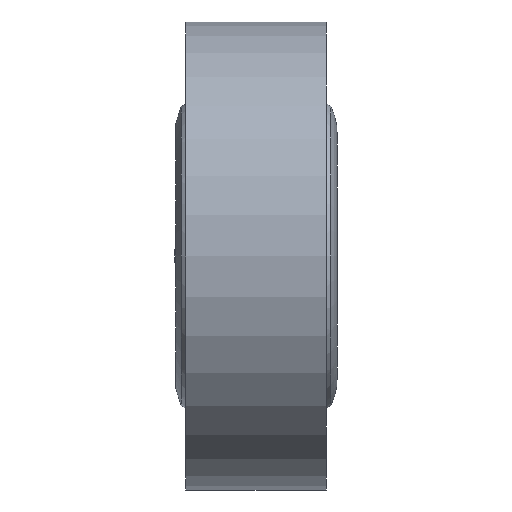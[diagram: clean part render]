
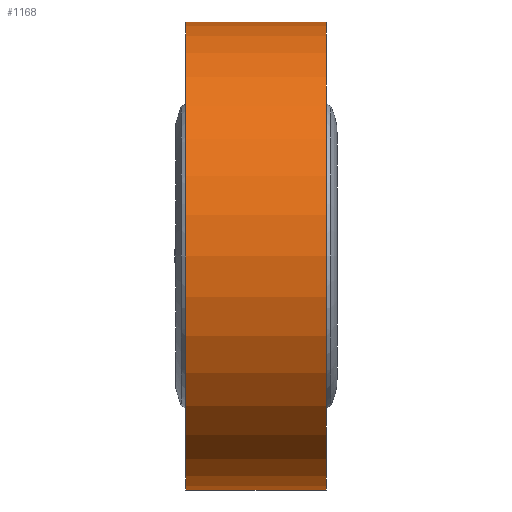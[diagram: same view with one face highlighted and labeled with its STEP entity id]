
A CAD part, left-side view. The second image highlights one B-rep face of the part: STEP entity #1168.
In plain terms, the highlighted cylindrical face has radius 12.5 mm (diameter 25 mm), a full revolution.
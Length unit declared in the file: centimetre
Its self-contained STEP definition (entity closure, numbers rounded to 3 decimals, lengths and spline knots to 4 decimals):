
#38=VECTOR('',#1339,1.);
#39=VECTOR('',#1340,1.);
#40=LINE('',#1720,#38);
#41=LINE('',#1721,#39);
#56=B_SPLINE_CURVE_WITH_KNOTS('',3,(#1656,#1657,#1658,#1659,#1660,#1661,
#1662,#1663,#1664,#1665,#1666,#1667,#1668,#1669),.UNSPECIFIED.,.F.,.U.,
(4,2,2,2,2,2,4),(0.104,0.2079,0.3119,
0.4158,0.5198,0.6237,0.7277),
 .UNSPECIFIED.);
#57=B_SPLINE_CURVE_WITH_KNOTS('',3,(#1672,#1673,#1674,#1675,#1676,#1677,
#1678,#1679,#1680,#1681,#1682,#1683,#1684,#1685),.UNSPECIFIED.,.F.,.U.,
(4,2,2,2,2,2,4),(0.104,0.2079,0.3119,
0.4158,0.5198,0.6237,0.7277),
 .UNSPECIFIED.);
#58=B_SPLINE_CURVE_WITH_KNOTS('',3,(#1688,#1689,#1690,#1691,#1692,#1693,
#1694,#1695,#1696,#1697,#1698,#1699,#1700,#1701),.UNSPECIFIED.,.F.,.U.,
(4,2,2,2,2,2,4),(0.9356,1.0396,1.1435,1.2475,
1.3514,1.4554,1.5593),.UNSPECIFIED.);
#59=B_SPLINE_CURVE_WITH_KNOTS('',3,(#1705,#1706,#1707,#1708,#1709,#1710,
#1711,#1712,#1713,#1714,#1715,#1716,#1717,#1718),.UNSPECIFIED.,.F.,.U.,
(4,2,2,2,2,2,4),(0.9356,1.0396,1.1435,1.2475,
1.3514,1.4554,1.5593),.UNSPECIFIED.);
#788=CYLINDRICAL_SURFACE('',#1224,1.25);
#821=VERTEX_POINT('',#1670);
#822=VERTEX_POINT('',#1671);
#823=VERTEX_POINT('',#1686);
#824=VERTEX_POINT('',#1702);
#825=VERTEX_POINT('',#1703);
#826=VERTEX_POINT('',#1704);
#827=VERTEX_POINT('',#1725);
#828=VERTEX_POINT('',#1727);
#861=CIRCLE('',#1225,1.25);
#862=CIRCLE('',#1226,1.25);
#896=EDGE_CURVE('',#821,#822,#56,.T.);
#897=EDGE_CURVE('',#823,#821,#57,.T.);
#899=EDGE_CURVE('',#824,#825,#58,.T.);
#901=EDGE_CURVE('',#825,#826,#59,.T.);
#902=EDGE_CURVE('',#822,#824,#40,.T.);
#903=EDGE_CURVE('',#826,#823,#41,.T.);
#904=EDGE_CURVE('',#827,#827,#861,.T.);
#905=EDGE_CURVE('',#828,#828,#862,.T.);
#969=ORIENTED_EDGE('',*,*,#897,.T.);
#970=ORIENTED_EDGE('',*,*,#896,.T.);
#971=ORIENTED_EDGE('',*,*,#902,.T.);
#972=ORIENTED_EDGE('',*,*,#899,.T.);
#973=ORIENTED_EDGE('',*,*,#901,.T.);
#974=ORIENTED_EDGE('',*,*,#903,.T.);
#975=ORIENTED_EDGE('',*,*,#904,.T.);
#976=ORIENTED_EDGE('',*,*,#905,.T.);
#1045=EDGE_LOOP('',(#969,#970,#971,#972,#973,#974));
#1046=EDGE_LOOP('',(#975));
#1047=EDGE_LOOP('',(#976));
#1116=FACE_BOUND('',#1045,.T.);
#1117=FACE_BOUND('',#1046,.T.);
#1118=FACE_BOUND('',#1047,.T.);
#1168=ADVANCED_FACE('',(#1116,#1117,#1118),#788,.T.);
#1224=AXIS2_PLACEMENT_3D('',#1723,#1343,#1344);
#1225=AXIS2_PLACEMENT_3D('',#1724,#1345,#1346);
#1226=AXIS2_PLACEMENT_3D('',#1726,#1347,#1348);
#1339=DIRECTION('',(0.,-1.,0.));
#1340=DIRECTION('',(0.,1.,0.));
#1343=DIRECTION('',(0.,1.,0.));
#1344=DIRECTION('',(1.25,0.,0.));
#1345=DIRECTION('',(0.,-1.,0.));
#1346=DIRECTION('',(1.25,0.,0.));
#1347=DIRECTION('',(0.,1.,0.));
#1348=DIRECTION('',(1.25,0.,0.));
#1656=CARTESIAN_POINT('',(1.2239,0.1054,0.254));
#1657=CARTESIAN_POINT('',(1.2268,0.1393,0.24));
#1658=CARTESIAN_POINT('',(1.2309,0.1701,0.2188));
#1659=CARTESIAN_POINT('',(1.2386,0.2188,0.1701));
#1660=CARTESIAN_POINT('',(1.2427,0.24,0.1393));
#1661=CARTESIAN_POINT('',(1.2484,0.2681,0.0715));
#1662=CARTESIAN_POINT('',(1.25,0.275,0.0347));
#1663=CARTESIAN_POINT('',(1.25,0.275,-0.0347));
#1664=CARTESIAN_POINT('',(1.2484,0.2681,-0.0715));
#1665=CARTESIAN_POINT('',(1.2427,0.24,-0.1393));
#1666=CARTESIAN_POINT('',(1.2386,0.2188,-0.1701));
#1667=CARTESIAN_POINT('',(1.2309,0.1701,-0.2188));
#1668=CARTESIAN_POINT('',(1.2268,0.1393,-0.24));
#1669=CARTESIAN_POINT('',(1.2239,0.1054,-0.254));
#1670=CARTESIAN_POINT('',(1.25,0.275,0.));
#1671=CARTESIAN_POINT('',(1.225,0.1173,-0.2487));
#1672=CARTESIAN_POINT('',(1.2239,0.1054,0.254));
#1673=CARTESIAN_POINT('',(1.2268,0.1393,0.24));
#1674=CARTESIAN_POINT('',(1.2309,0.1701,0.2188));
#1675=CARTESIAN_POINT('',(1.2386,0.2188,0.1701));
#1676=CARTESIAN_POINT('',(1.2427,0.24,0.1393));
#1677=CARTESIAN_POINT('',(1.2484,0.2681,0.0715));
#1678=CARTESIAN_POINT('',(1.25,0.275,0.0347));
#1679=CARTESIAN_POINT('',(1.25,0.275,-0.0347));
#1680=CARTESIAN_POINT('',(1.2484,0.2681,-0.0715));
#1681=CARTESIAN_POINT('',(1.2427,0.24,-0.1393));
#1682=CARTESIAN_POINT('',(1.2386,0.2188,-0.1701));
#1683=CARTESIAN_POINT('',(1.2309,0.1701,-0.2188));
#1684=CARTESIAN_POINT('',(1.2268,0.1393,-0.24));
#1685=CARTESIAN_POINT('',(1.2239,0.1054,-0.254));
#1686=CARTESIAN_POINT('',(1.225,0.1173,0.2487));
#1688=CARTESIAN_POINT('',(1.2239,-0.1054,-0.254));
#1689=CARTESIAN_POINT('',(1.2268,-0.1393,-0.24));
#1690=CARTESIAN_POINT('',(1.2309,-0.1701,-0.2188));
#1691=CARTESIAN_POINT('',(1.2386,-0.2188,-0.1701));
#1692=CARTESIAN_POINT('',(1.2427,-0.24,-0.1393));
#1693=CARTESIAN_POINT('',(1.2484,-0.2681,-0.0715));
#1694=CARTESIAN_POINT('',(1.25,-0.275,-0.0347));
#1695=CARTESIAN_POINT('',(1.25,-0.275,0.0347));
#1696=CARTESIAN_POINT('',(1.2484,-0.2681,0.0715));
#1697=CARTESIAN_POINT('',(1.2427,-0.24,0.1393));
#1698=CARTESIAN_POINT('',(1.2386,-0.2188,0.1701));
#1699=CARTESIAN_POINT('',(1.2309,-0.1701,0.2188));
#1700=CARTESIAN_POINT('',(1.2268,-0.1393,0.24));
#1701=CARTESIAN_POINT('',(1.2239,-0.1054,0.254));
#1702=CARTESIAN_POINT('',(1.225,-0.1173,-0.2487));
#1703=CARTESIAN_POINT('',(1.25,-0.275,0.));
#1704=CARTESIAN_POINT('',(1.225,-0.1173,0.2487));
#1705=CARTESIAN_POINT('',(1.2239,-0.1054,-0.254));
#1706=CARTESIAN_POINT('',(1.2268,-0.1393,-0.24));
#1707=CARTESIAN_POINT('',(1.2309,-0.1701,-0.2188));
#1708=CARTESIAN_POINT('',(1.2386,-0.2188,-0.1701));
#1709=CARTESIAN_POINT('',(1.2427,-0.24,-0.1393));
#1710=CARTESIAN_POINT('',(1.2484,-0.2681,-0.0715));
#1711=CARTESIAN_POINT('',(1.25,-0.275,-0.0347));
#1712=CARTESIAN_POINT('',(1.25,-0.275,0.0347));
#1713=CARTESIAN_POINT('',(1.2484,-0.2681,0.0715));
#1714=CARTESIAN_POINT('',(1.2427,-0.24,0.1393));
#1715=CARTESIAN_POINT('',(1.2386,-0.2188,0.1701));
#1716=CARTESIAN_POINT('',(1.2309,-0.1701,0.2188));
#1717=CARTESIAN_POINT('',(1.2268,-0.1393,0.24));
#1718=CARTESIAN_POINT('',(1.2239,-0.1054,0.254));
#1720=CARTESIAN_POINT('',(1.225,0.,-0.2487));
#1721=CARTESIAN_POINT('',(1.225,0.,0.2487));
#1723=CARTESIAN_POINT('',(0.,-0.375,0.));
#1724=CARTESIAN_POINT('',(0.,0.375,0.));
#1725=CARTESIAN_POINT('',(1.25,0.375,0.));
#1726=CARTESIAN_POINT('',(0.,-0.375,0.));
#1727=CARTESIAN_POINT('',(1.25,-0.375,0.));
